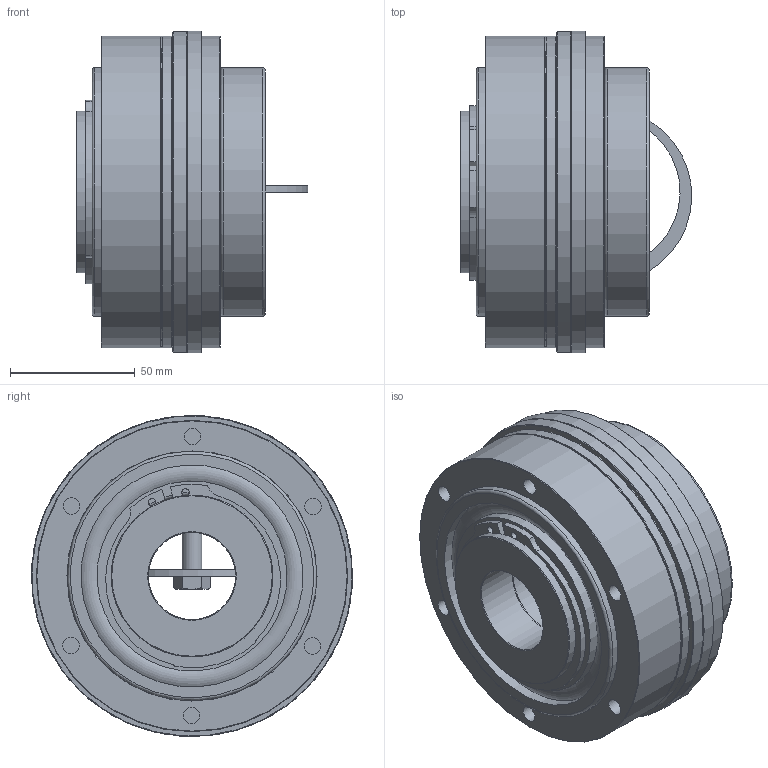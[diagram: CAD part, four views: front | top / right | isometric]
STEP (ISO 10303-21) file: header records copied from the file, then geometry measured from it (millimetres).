
FILE_DESCRIPTION( ( 'Unknown' ), '1' );
FILE_NAME( 'C:/Dokumente und Einstellungen/Sven/Desktop/hp kbk/KBK L-I-500.stp', 'Unknown', ( 'Unknown' ), ( 'Unknown' ), 'XStep 1.0', 'Unknown', ' ' );
FILE_SCHEMA( ( 'automotive_design' ) );
Length unit declared in the file: millimetre
Products named in the file (12): Assem1; Assem2; ball_bearing_-_6013_0_01; ball_bearing_-_6013_0_02; ball_bearing_-_6013_0_03; Stellring 500; Druckring 500; a_65; KBK L-I-500 Grundkörper; Konusbuchse 500; Flansch 500; din_en_24017_m8x30_1
Bounding box: 92.94 x 129 x 129 mm (x, y, z)
Volume: 1125134.4 mm3; surface area: 380730.1 mm2
Topology: 28 solids, 28 shells, 499 faces, 1054 edges, 672 vertices
Faces by surface type: plane 197, cylinder 150, cone 120, torus 32
Full cylindrical faces by diameter (mm): 3 x4, 3.242 x6, 5.1 x6, 5.2 x6, 6.647 x30, 8 x7, 9 x12, 11.63 x7, 35 x4, 62 x2, 62.6 x2, 65 x7, 76.3 x6, 86 x4, 89 x2, 89.1 x6, 91 x2, 100 x5, 104.5 x2, 113 x2, 114 x2, 125 x4, 129 x2
Entity records: 5123 total; most frequent: CARTESIAN_POINT 1127, DIRECTION 846, ORIENTED_EDGE 552, AXIS2_PLACEMENT_3D 393, EDGE_LOOP 346, EDGE_CURVE 276, FACE_OUTER_BOUND 251, VERTEX_POINT 228
